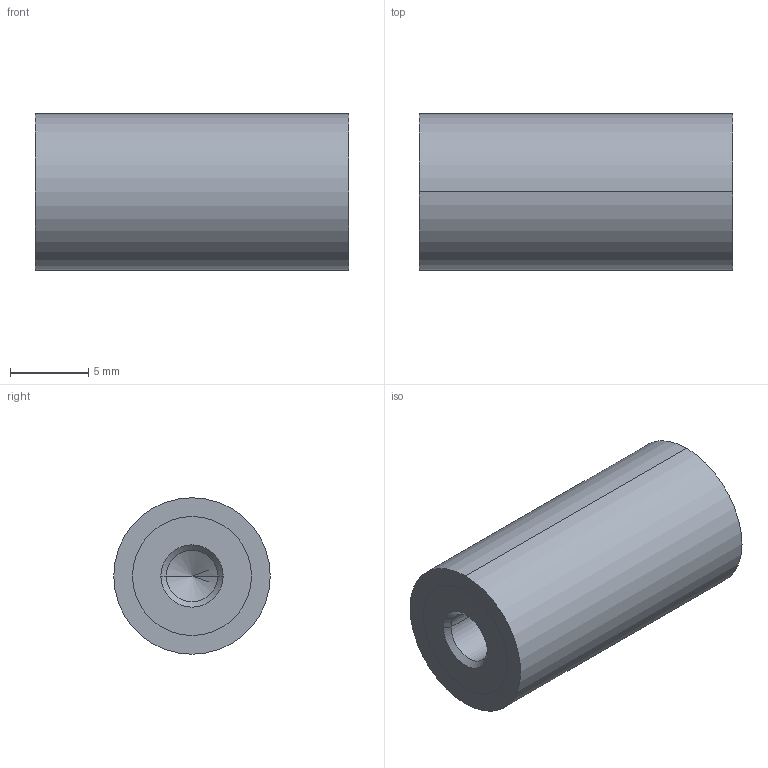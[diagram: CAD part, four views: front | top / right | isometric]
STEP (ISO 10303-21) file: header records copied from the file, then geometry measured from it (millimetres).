
FILE_DESCRIPTION (( 'STEP AP214' ), '1' );
FILE_NAME ('351-10-20-M4-EE-40.step', '2025-07-23T09:55:10', ( '' ), ( '' ), 'SwSTEP 2.0', 'SolidWorks 2022', '' );
FILE_SCHEMA (( 'AUTOMOTIVE_DESIGN' ));
Length unit declared in the file: millimetre
Products named in the file (1): 351-10-20-M4-EE-40
Bounding box: 20 x 10 x 10 mm (x, y, z)
Volume: 1486.6 mm3; surface area: 877.6 mm2
Topology: 1 solids, 1 shells, 28 faces, 58 edges, 34 vertices
Faces by surface type: cylinder 14, cone 8, plane 6
Entity records: 844 total; most frequent: DIRECTION 144, CARTESIAN_POINT 117, ORIENTED_EDGE 108, AXIS2_PLACEMENT_3D 61, EDGE_CURVE 54, EDGE_LOOP 34, VERTEX_POINT 34, CIRCLE 32
